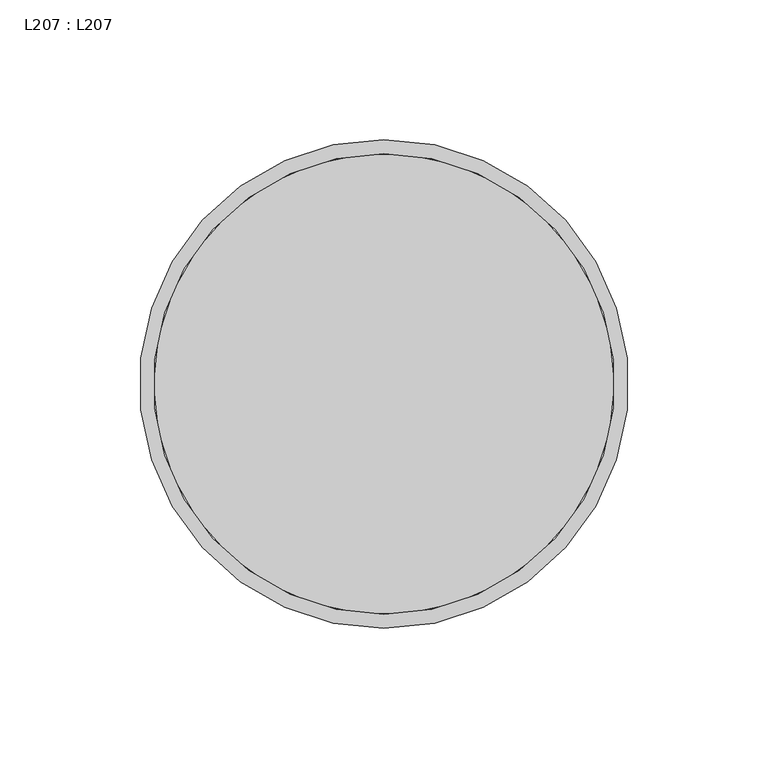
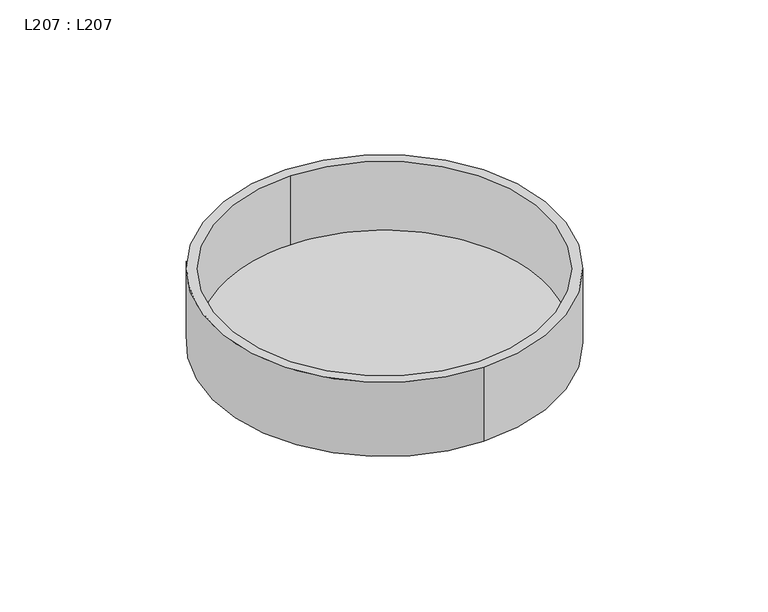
"""IFC4 building model written with IfcOpenShell, lengths in millimetres: light fixture geometry, L207 : L207."""

from ifc_helpers import new_model, si_unit, point, frame, origin, origin_2d, place, context, project, spatial, circle_curve, trimmed, segment, composite_curve, outline, extrude, source, transform, mapped, element, save


def l207_l207_1a914073(model_context):
    return source(origin(), model_context, "Body", "SweptSolid", [
        extrude(outline(composite_curve([segment(trimmed(circle_curve(origin_2d(), 82.5), [point((-82.5, 0.0))], [point((82.5, 0.0))], False, "CARTESIAN"), True, "CONTINUOUS"), segment(trimmed(circle_curve(origin_2d(), 82.5), [point((82.5, 0.0))], [point((-82.5, 0.0))], False, "CARTESIAN"), True, "CONTINUOUS")], self_intersect=False)), frame((0.0, 0.0, 2960.0), z_axis=(0.0, 0.0, 1.0), x_axis=(1.0, 0.0, 0.0)), (0.0, 0.0, 1.0), 3.0),
        extrude(outline(composite_curve([segment(trimmed(circle_curve(origin_2d(), 87.5), [point((0.0, 87.5))], [point((0.0, -87.5))], False, "CARTESIAN"), True, "CONTINUOUS"), segment(trimmed(circle_curve(origin_2d(), 87.5), [point((0.0, -87.5))], [point((0.0, 87.5))], False, "CARTESIAN"), True, "CONTINUOUS")], self_intersect=False), holes=[composite_curve([segment(trimmed(circle_curve(origin_2d(), 82.5), [point((0.0, 82.5))], [point((0.0, -82.5))], True, "CARTESIAN"), True, "CONTINUOUS"), segment(trimmed(circle_curve(origin_2d(), 82.5), [point((0.0, -82.5))], [point((0.0, 82.5))], True, "CARTESIAN"), True, "CONTINUOUS")], self_intersect=False)]), frame((0.0, 0.0, 2960.0), z_axis=(0.0, 0.0, 1.0), x_axis=(1.0, 0.0, 0.0)), (0.0, 0.0, 1.0), 40.0),
    ])


if __name__ == "__main__":
    model = new_model("IFC4")
    model_context = context("Model", 3, world=origin())
    ifc_project = project(units=[si_unit("LENGTHUNIT", "METRE", prefix="MILLI")], contexts=[model_context])
    site = spatial("IfcSite", under=ifc_project)
    building = spatial("IfcBuilding", under=site)
    placement = place(None, origin())
    l207_l207_shape = l207_l207_1a914073(model_context)
    element("IfcLightFixture", 1, ObjectType="L207 : L207", at=placement, inside=building, context=model_context, shape_type="MappedRepresentation", body=[
        mapped(l207_l207_shape, transform((0.0, 0.0, 0.0), x_axis=(1.0, 0.0, 0.0), y_axis=(0.0, 1.0, 0.0), z_axis=(0.0, 0.0, 1.0))),
    ])
    save(model, "model.ifc")
